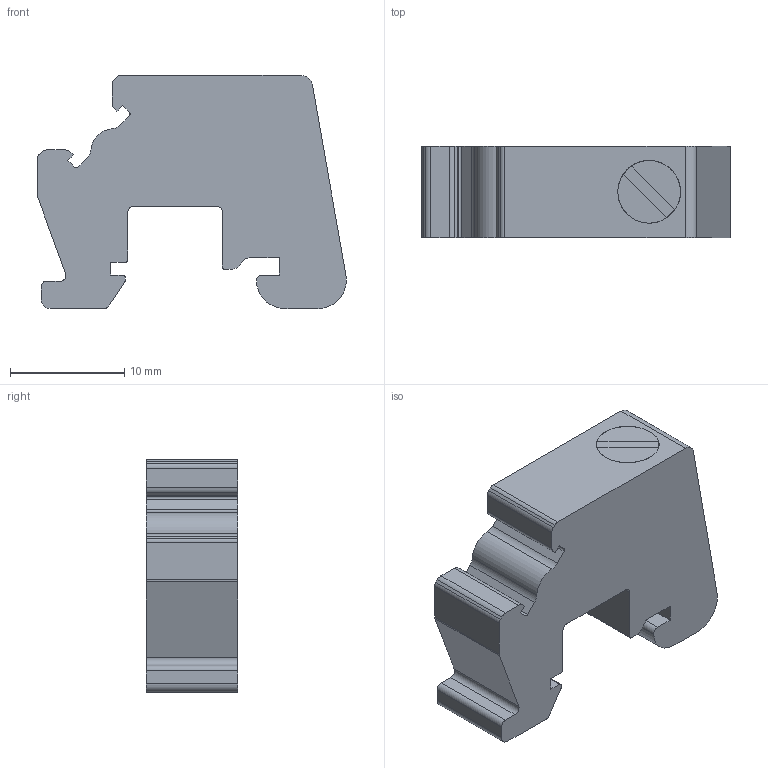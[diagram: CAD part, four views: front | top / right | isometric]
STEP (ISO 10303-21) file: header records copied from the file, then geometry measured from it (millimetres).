
FILE_DESCRIPTION( ( 'Unknown' ), '1' );
FILE_NAME( 'Z:/Product Configurator/3d/CA602.stp', 'Unknown', ( 'Unknown' ), ( 'Unknown' ), 'PSStep 17.0.49', 'Unknown', ' ' );
FILE_SCHEMA( ( 'AUTOMOTIVE_DESIGN { 1 0 10303 214 1 1 1 1 }' ) );
Length unit declared in the file: millimetre
Products named in the file (1): 1
Bounding box: 27.08 x 8 x 20.44 mm (x, y, z)
Volume: 2954.1 mm3; surface area: 1767.2 mm2
Topology: 1 solids, 1 shells, 70 faces, 200 edges, 133 vertices
Faces by surface type: plane 40, cylinder 30
Full cylindrical faces by diameter (mm): 2.5 x1, 5.5 x1
Entity records: 2286 total; most frequent: DIRECTION 401, CARTESIAN_POINT 398, ORIENTED_EDGE 392, EDGE_CURVE 196, AXIS2_PLACEMENT_3D 134, LINE 133, VECTOR 133, VERTEX_POINT 131
